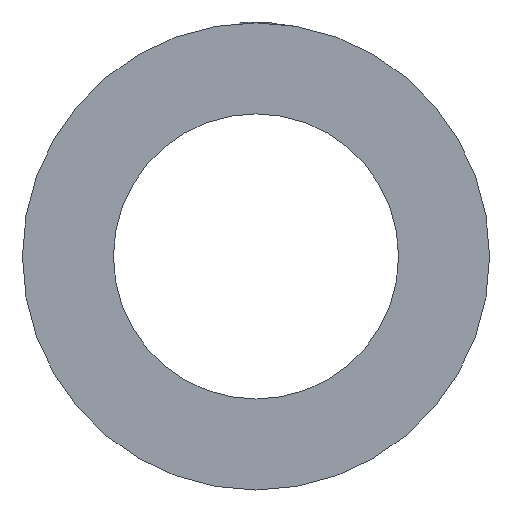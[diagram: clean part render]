
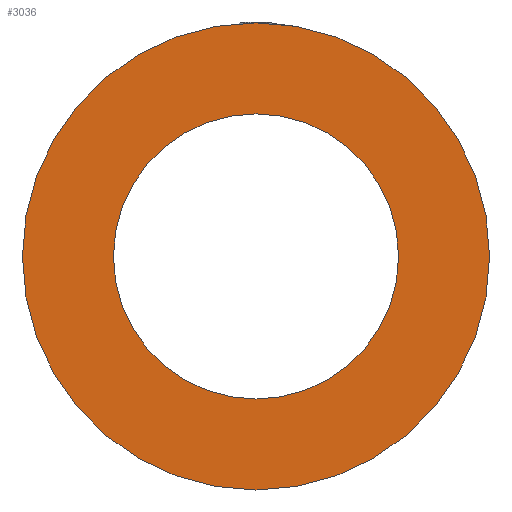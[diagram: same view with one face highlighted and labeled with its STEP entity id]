
A CAD part, left-side view. The second image highlights one B-rep face of the part: STEP entity #3036.
In plain terms, the highlighted planar face has unit normal (-1, 0, 0).
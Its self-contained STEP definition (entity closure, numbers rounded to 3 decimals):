
#18 = ORIENTED_EDGE ( 'NONE', *, *, #1164, .F. ) ;
#55 = CARTESIAN_POINT ( 'NONE',  ( 0., 0., -134. ) ) ;
#165 = DIRECTION ( 'NONE',  ( 0., 0., 1. ) ) ;
#176 = DIRECTION ( 'NONE',  ( -1., 0., 0. ) ) ;
#189 = CARTESIAN_POINT ( 'NONE',  ( 0., 0., 0. ) ) ;
#299 = VERTEX_POINT ( 'NONE', #547 ) ;
#354 = EDGE_LOOP ( 'NONE', ( #935, #18 ) ) ;
#421 = DIRECTION ( 'NONE',  ( 0., 0., 1. ) ) ;
#441 = DIRECTION ( 'NONE',  ( -1., 0., 0. ) ) ;
#472 = CIRCLE ( 'NONE', #2117, 134. ) ;
#547 = CARTESIAN_POINT ( 'NONE',  ( 0., 0., 81.8 ) ) ;
#548 = CIRCLE ( 'NONE', #2420, 81.8 ) ;
#554 = DIRECTION ( 'NONE',  ( 0., 0., 1. ) ) ;
#564 = DIRECTION ( 'NONE',  ( -1., 0., 0. ) ) ;
#586 = CARTESIAN_POINT ( 'NONE',  ( 0., 0., 0. ) ) ;
#675 = CARTESIAN_POINT ( 'NONE',  ( 0., 0., -81.8 ) ) ;
#682 = VERTEX_POINT ( 'NONE', #55 ) ;
#798 = CIRCLE ( 'NONE', #1139, 134. ) ;
#935 = ORIENTED_EDGE ( 'NONE', *, *, #1002, .F. ) ;
#941 = ORIENTED_EDGE ( 'NONE', *, *, #1252, .T. ) ;
#1002 = EDGE_CURVE ( 'NONE', #299, #1171, #548, .T. ) ;
#1010 = CIRCLE ( 'NONE', #2234, 81.8 ) ;
#1139 = AXIS2_PLACEMENT_3D ( 'NONE', #2841, #441, #421 ) ;
#1164 = EDGE_CURVE ( 'NONE', #1171, #299, #1010, .T. ) ;
#1171 = VERTEX_POINT ( 'NONE', #675 ) ;
#1252 = EDGE_CURVE ( 'NONE', #682, #2092, #472, .T. ) ;
#1432 = ORIENTED_EDGE ( 'NONE', *, *, #2446, .T. ) ;
#1451 = DIRECTION ( 'NONE',  ( 0., 0., 1. ) ) ;
#1480 = DIRECTION ( 'NONE',  ( -1., 0., 0. ) ) ;
#1542 = CARTESIAN_POINT ( 'NONE',  ( 0., 0., 0. ) ) ;
#1642 = CARTESIAN_POINT ( 'NONE',  ( 0., 0., 134. ) ) ;
#2089 = DIRECTION ( 'NONE',  ( 0., 0., -1. ) ) ;
#2091 = DIRECTION ( 'NONE',  ( 1., 0., 0. ) ) ;
#2092 = VERTEX_POINT ( 'NONE', #1642 ) ;
#2094 = CARTESIAN_POINT ( 'NONE',  ( 0., 81.8, 0. ) ) ;
#2117 = AXIS2_PLACEMENT_3D ( 'NONE', #189, #176, #165 ) ;
#2130 = PLANE ( 'NONE',  #2551 ) ;
#2234 = AXIS2_PLACEMENT_3D ( 'NONE', #586, #564, #554 ) ;
#2375 = EDGE_LOOP ( 'NONE', ( #1432, #941 ) ) ;
#2420 = AXIS2_PLACEMENT_3D ( 'NONE', #1542, #1480, #1451 ) ;
#2446 = EDGE_CURVE ( 'NONE', #2092, #682, #798, .T. ) ;
#2515 = FACE_OUTER_BOUND ( 'NONE', #2375, .T. ) ;
#2551 = AXIS2_PLACEMENT_3D ( 'NONE', #2094, #2091, #2089 ) ;
#2841 = CARTESIAN_POINT ( 'NONE',  ( 0., 0., 0. ) ) ;
#2966 = FACE_BOUND ( 'NONE', #354, .T. ) ;
#3036 = ADVANCED_FACE ( 'NONE', ( #2966, #2515 ), #2130, .F. ) ;
